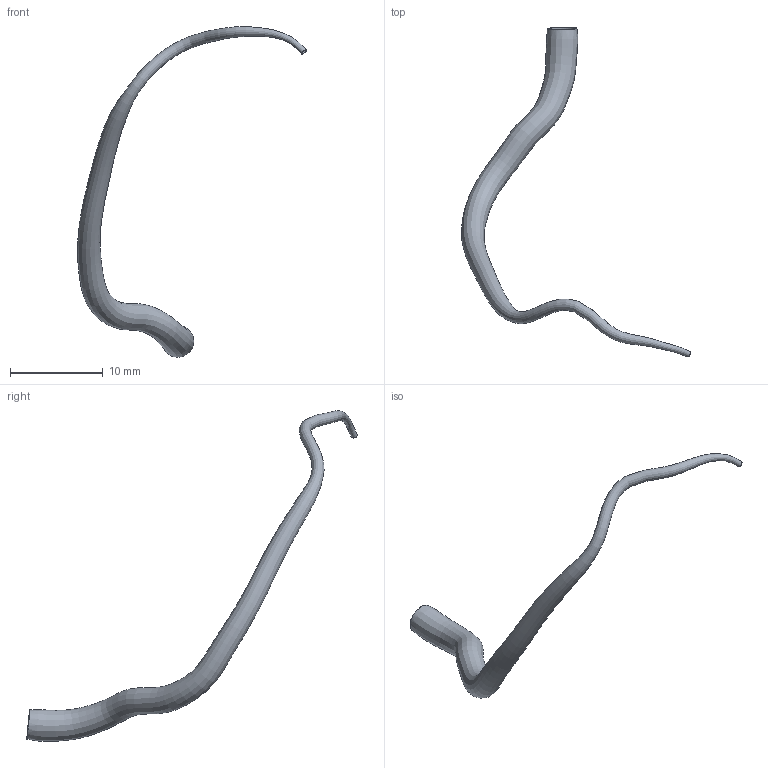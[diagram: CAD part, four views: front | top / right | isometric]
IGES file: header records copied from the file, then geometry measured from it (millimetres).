
Global section: file name: C:\Documents and Settings\Administrator\Desktop\FDA-Pig\Domestic LCA\Pig_000005\lcx.seg.es.igs; native system: Rhinoceros ( May 19 2006 ); preprocessor: Trout Lake IGES 012 May 19 2006; date: 111205.183417; units: centimetre
Bounding box: 24.72 x 35.66 x 35.7 mm (x, y, z)
Surface area: 900.1 mm2 (no closed solid volume)
Topology: 0 solids, 0 shells, 4 faces, 13 edges, 10 vertices
Faces by surface type: bspline 4
